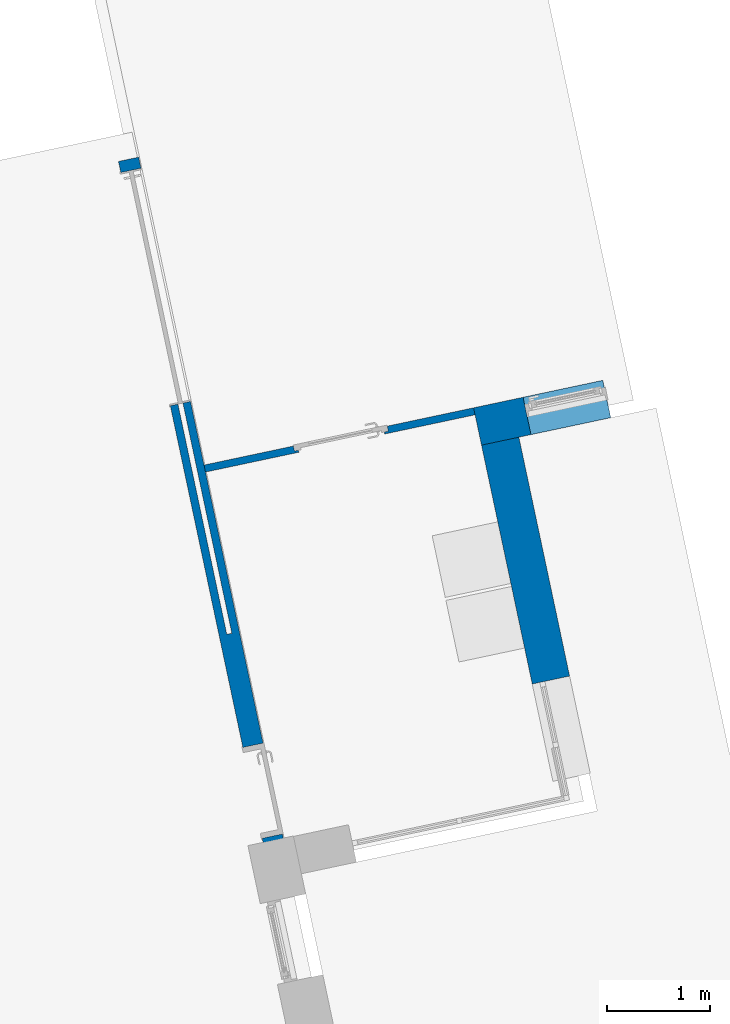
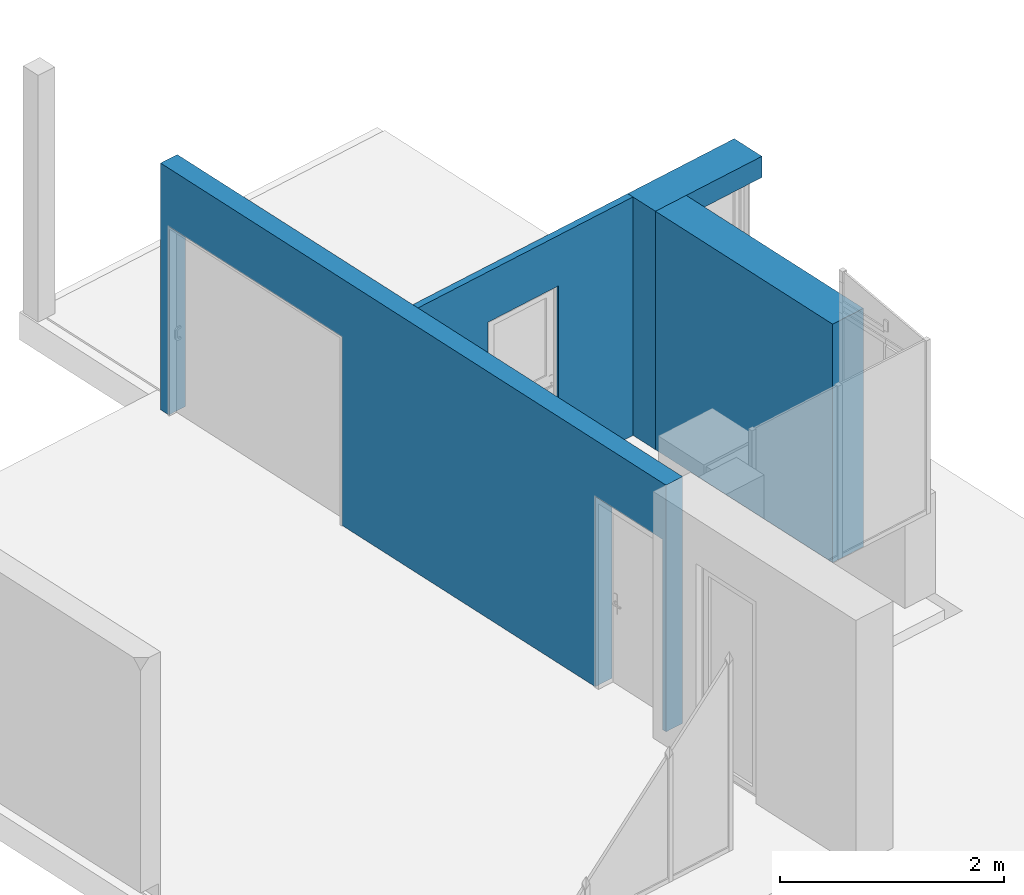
# One storey, part 3 of 17: 4 walls, 7 openings.
"""IFC2X3 building model written with IfcOpenShell, lengths in centimetres."""

import ifcopenshell
import ifcopenshell.guid

model = None  # the IFC model being written
_history = None  # IfcOwnerHistory: only IFC2X3 demands one
_inside = {}  # id of a spatial element -> (the spatial element, [elements in it])
_under = {}  # id of a project, library or spatial element -> (it, [spatial elements below it])
_declared = {}  # id of a project -> (the project, [libraries it declares])
_typed = {}  # id of a type object -> (the type object, [elements of that type])
_made_of = {}  # id of a material, layer set ... -> (it, [elements and type objects made of it])


def new_model(schema):
    """Start an empty IFC model of exactly this schema.

    Asked for "IFC4X3", IfcOpenShell would pick the latest addendum, in which some entities
    have other attributes; the version numbers below select the first issue.
    IFC2X3 requires an IfcOwnerHistory on every rooted entity: one is made here for all.
    """
    global model, _history
    if schema == "IFC4X3":
        model = ifcopenshell.file(schema_version=(4, 3, 0, 0))
    else:
        model = ifcopenshell.file(schema=schema)
    _inside.clear()
    _under.clear()
    _declared.clear()
    _typed.clear()
    _made_of.clear()
    _history = None
    if model.schema == "IFC2X3":
        org = make("IfcOrganization", Name="unknown")
        user = make(
            "IfcPersonAndOrganization",
            ThePerson=make("IfcPerson", FamilyName="unknown"),
            TheOrganization=org,
        )
        app = make(
            "IfcApplication",
            ApplicationDeveloper=org,
            Version="unknown",
            ApplicationFullName="unknown",
            ApplicationIdentifier="unknown",
        )
        _history = make(
            "IfcOwnerHistory",
            OwningUser=user,
            OwningApplication=app,
            ChangeAction="ADDED",
            CreationDate=0,
        )
    return model


def make(cls, **values):
    """One entity of the class cls with the attributes given. An attribute that is None is left unset."""
    return model.create_entity(
        cls, **{name: value for name, value in values.items() if value is not None}
    )


def entity(cls, *values):
    """Any entity or typed value of the class cls, its attributes in the order of the schema. None: left unset."""
    e = model.create_entity(cls)
    for i, value in enumerate(values):
        if value is not None:
            e[i] = value
    return e


def rooted(cls, **values):
    """An entity with a GlobalId (a new one), such as an element, a storey or a relation."""
    return make(cls, GlobalId=ifcopenshell.guid.new(), OwnerHistory=_history, **values)


def si_unit(unit_type, name, prefix=None):
    """IfcSIUnit, for example si_unit("LENGTHUNIT", "METRE", prefix="MILLI")."""
    return make("IfcSIUnit", UnitType=unit_type, Prefix=prefix, Name=name)


def converted_unit(unit_type, name, factor, base, dimensions=None, offset=None):
    """IfcConversionBasedUnit, such as the inch: factor (a typed value) times the base unit."""
    return make(
        "IfcConversionBasedUnit"
        if offset is None
        else "IfcConversionBasedUnitWithOffset",
        ConversionOffset=offset,
        Dimensions=None
        if dimensions is None
        else entity("IfcDimensionalExponents", *dimensions),
        UnitType=unit_type,
        Name=name,
        ConversionFactor=make(
            "IfcMeasureWithUnit", ValueComponent=factor, UnitComponent=base
        ),
    )


def derived_unit(unit_type, elements):
    """IfcDerivedUnit: a product of units, each with its exponent."""
    return make(
        "IfcDerivedUnit",
        Elements=[
            make("IfcDerivedUnitElement", Unit=unit, Exponent=power)
            for unit, power in elements
        ],
        UnitType=unit_type,
    )


def assignment(units):
    """IfcUnitAssignment: the units of a project."""
    return None if units is None else make("IfcUnitAssignment", Units=units)


def point(xyz):
    """IfcCartesianPoint."""
    return None if xyz is None else make("IfcCartesianPoint", Coordinates=xyz)


def direction(xyz):
    """IfcDirection."""
    return None if xyz is None else make("IfcDirection", DirectionRatios=xyz)


def frame(location, z_axis=None, x_axis=None):
    """IfcAxis2Placement3D, a coordinate frame: its origin and axes. An axis left out is left unset."""
    return make(
        "IfcAxis2Placement3D",
        Location=point(location),
        Axis=direction(z_axis),
        RefDirection=direction(x_axis),
    )


def frame_2d(location, x_axis=None):
    """IfcAxis2Placement2D, a coordinate frame in the plane: its origin and x axis."""
    return make(
        "IfcAxis2Placement2D", Location=point(location), RefDirection=direction(x_axis)
    )


def origin():
    """The frame at (0, 0, 0) with its axes left unset."""
    return frame((0.0, 0.0, 0.0))


def place(relative_to, where):
    """IfcLocalPlacement: puts the frame where relative to a parent placement (None: the world)."""
    return make(
        "IfcLocalPlacement", PlacementRelTo=relative_to, RelativePlacement=where
    )


def context(
    kind, dimensions, precision=None, world=None, true_north=None, identifier=None
):
    """IfcGeometricRepresentationContext, for example the 3D "Model" context."""
    return make(
        "IfcGeometricRepresentationContext",
        ContextIdentifier=identifier,
        ContextType=kind,
        CoordinateSpaceDimension=dimensions,
        Precision=precision,
        WorldCoordinateSystem=world,
        TrueNorth=true_north,
    )


def subcontext(parent, identifier, kind, view, scale=None):
    """IfcGeometricRepresentationSubContext, for example "Body" below "Model"."""
    return make(
        "IfcGeometricRepresentationSubContext",
        ContextIdentifier=identifier,
        ContextType=kind,
        ParentContext=parent,
        TargetScale=scale,
        TargetView=view,
    )


def project(units=None, contexts=None):
    """IfcProject with its units and contexts."""
    return rooted(
        "IfcProject",
        Name="project",
        RepresentationContexts=contexts,
        UnitsInContext=assignment(units),
    )


def spatial(cls, under=None, at=None, **own):
    """A site, building, storey or space (cls), placed at a placement, below another one or the project."""
    s = rooted(cls, ObjectPlacement=at, **own)
    if under is not None:
        _under.setdefault(under.id(), (under, []))[1].append(s)
    return s


def polyline(points):
    """IfcPolyline through the points."""
    return make("IfcPolyline", Points=[point(p) for p in points])


def profile(cls, at=None, kind="AREA", **sizes):
    """A parametric profile (cls). Its sizes go by their IFC names, for example OverallWidth=200.0."""
    return make(cls, ProfileType=kind, Position=at, **sizes)


def rectangle(**sizes):
    """IfcRectangleProfileDef."""
    return profile("IfcRectangleProfileDef", **sizes)


def extrude(swept, where, along, depth):
    """IfcExtrudedAreaSolid: the profile swept, set in the frame where, extruded along a direction by depth."""
    return make(
        "IfcExtrudedAreaSolid",
        SweptArea=swept,
        Position=where,
        ExtrudedDirection=direction(along),
        Depth=depth,
    )


def clip(a, b, op="DIFFERENCE"):
    """IfcBooleanClippingResult: the solid a cut by the half space b."""
    return make(
        "IfcBooleanClippingResult", Operator=op, FirstOperand=a, SecondOperand=b
    )


def bounded_halfspace(plane, agree, where, boundary):
    """IfcPolygonalBoundedHalfSpace: a half space limited to a polygon's prism."""
    return make(
        "IfcPolygonalBoundedHalfSpace",
        BaseSurface=make("IfcPlane", Position=plane),
        AgreementFlag=agree,
        Position=where,
        PolygonalBoundary=boundary,
    )


def faces_of(points, faces, orient=None, outer=None):
    """IfcFace entities. A face is a list of loops; a loop is a list of indices into points, from 0.

    orient and outer hold one flag for each loop. By default every Orientation is true, the
    first loop of a face is its IfcFaceOuterBound and the others are IfcFaceBound.
    """
    made = []
    for i, loops in enumerate(faces):
        bounds = []
        for j, loop in enumerate(loops):
            is_outer = j == 0 if outer is None else outer[i][j]
            bounds.append(
                make(
                    "IfcFaceOuterBound" if is_outer else "IfcFaceBound",
                    Bound=make("IfcPolyLoop", Polygon=[points[k] for k in loop]),
                    Orientation=True if orient is None else orient[i][j],
                )
            )
        made.append(make("IfcFace", Bounds=bounds))
    return made


def faceted_brep(points, faces, orient=None, outer=None, voids=None):
    """IfcFacetedBrep: a solid bounded by flat faces; with voids (closed shells), ...WithVoids."""
    shared = [point(p) for p in points]
    hull = make("IfcClosedShell", CfsFaces=faces_of(shared, faces, orient, outer))
    if voids is None:
        return make("IfcFacetedBrep", Outer=hull)
    return make(
        "IfcFacetedBrepWithVoids",
        Outer=hull,
        Voids=[
            make(cls, CfsFaces=faces_of(shared, fs, o, b)) for cls, fs, o, b in voids
        ],
    )


def shape(context_of_items, identifier, shape_type, items):
    """IfcShapeRepresentation: the items that make up one representation, for example the "Body"."""
    return make(
        "IfcShapeRepresentation",
        ContextOfItems=context_of_items,
        RepresentationIdentifier=identifier,
        RepresentationType=shape_type,
        Items=items,
    )


def material(Name=None, Category=None):
    """IfcMaterial."""
    return make("IfcMaterial", Name=Name, Category=Category)


def layer(
    of_material, thickness, ventilated=None, Name=None, Category=None, Priority=None
):
    """IfcMaterialLayer: one layer of a wall or slab, of a material (None: an air gap)."""
    return make(
        "IfcMaterialLayer",
        Material=of_material,
        LayerThickness=thickness,
        IsVentilated=ventilated,
        Name=Name,
        Category=Category,
        Priority=Priority,
    )


def layer_set(layers, Name=None):
    """IfcMaterialLayerSet."""
    return make("IfcMaterialLayerSet", MaterialLayers=layers, LayerSetName=Name)


def layer_usage(for_layer_set, set_direction, sense, offset, extent=None):
    """IfcMaterialLayerSetUsage: how a layer set lies in its element."""
    return make(
        "IfcMaterialLayerSetUsage",
        ForLayerSet=for_layer_set,
        LayerSetDirection=set_direction,
        DirectionSense=sense,
        OffsetFromReferenceLine=offset,
        ReferenceExtent=extent,
    )


def made_of(thing, what):
    """Note that an element or type object is made of a material, layer set ...; save() writes the relation."""
    if what is not None:
        _made_of.setdefault(what.id(), (what, []))[1].append(thing)
    return thing


def type_object(cls, material=None, **own):
    """A type object (cls), such as IfcWallType, which elements share."""
    return made_of(rooted(cls, **own), material)


def element(
    cls,
    number,
    at=None,
    inside=None,
    cuts=None,
    type_object=None,
    material=None,
    context=None,
    identifier="Body",
    shape_type=None,
    held_by="IfcProductDefinitionShape",
    body=None,
    shapes=None,
    **own,
):
    """One element of the class cls, such as IfcWall. Its Tag is "e" and its number.

    at: its placement. inside: the storey or other place that contains it. cuts: it is an
    opening in that element (IfcRelVoidsElement). A single representation is given by context,
    identifier, shape_type and body (its items); several are given by shapes. held_by: the class
    of the entity that holds the representations. save() writes the other relations.
    """
    e = rooted(cls, Tag="e%d" % number, ObjectPlacement=at, **own)
    if body is not None:
        shapes = [shape(context, identifier, shape_type, body)]
    if shapes is not None:
        e.Representation = make(held_by, Representations=shapes)
    if inside is not None:
        _inside.setdefault(inside.id(), (inside, []))[1].append(e)
    if cuts is not None:
        rooted(
            "IfcRelVoidsElement", RelatingBuildingElement=cuts, RelatedOpeningElement=e
        )
    if type_object is not None:
        _typed.setdefault(type_object.id(), (type_object, []))[1].append(e)
    return made_of(e, material)


def aggregate(whole, parts):
    """IfcRelAggregates: a whole, such as a stair, and the parts it consists of."""
    return rooted("IfcRelAggregates", RelatingObject=whole, RelatedObjects=parts)


def save(model, path):
    """Write the relations noted so far, then the file.

    IfcRelAggregates (storeys below a building ...), IfcRelContainedInSpatialStructure (elements
    in a storey), IfcRelDefinesByType, IfcRelAssociatesMaterial and IfcRelDeclares: one each for
    every whole, place, type object, material and project.
    """
    for whole, parts in _under.values():
        aggregate(whole, parts)
    for where, things in _inside.values():
        rooted(
            "IfcRelContainedInSpatialStructure",
            RelatedElements=things,
            RelatingStructure=where,
        )
    for kind, things in _typed.values():
        rooted("IfcRelDefinesByType", RelatedObjects=things, RelatingType=kind)
    for what, things in _made_of.values():
        rooted("IfcRelAssociatesMaterial", RelatedObjects=things, RelatingMaterial=what)
    for by, libraries in _declared.values():
        rooted("IfcRelDeclares", RelatingContext=by, RelatedDefinitions=libraries)
    model.write(path)


model = new_model("IFC2X3")

# Units and contexts
model_context = context("Model", 3, precision=0.001, world=origin(), true_north=direction((6.12303176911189e-17, 1.0)))
body_context = subcontext(model_context, "Body", "Model", "MODEL_VIEW")
ifc_project = project(units=[si_unit("LENGTHUNIT", "METRE", prefix="CENTI"), si_unit("AREAUNIT", "SQUARE_METRE"), si_unit("VOLUMEUNIT", "CUBIC_METRE"), converted_unit("PLANEANGLEUNIT", "DEGREE", entity("IfcRatioMeasure", 0.0174532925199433), si_unit("PLANEANGLEUNIT", "RADIAN"), dimensions=[0, 0, 0, 0, 0, 0, 0]), si_unit("MASSUNIT", "GRAM", prefix="KILO"), derived_unit("MASSDENSITYUNIT", [(si_unit("MASSUNIT", "GRAM", prefix="KILO"), 1), (si_unit("LENGTHUNIT", "METRE"), -3)]), derived_unit("IONCONCENTRATIONUNIT", [(si_unit("MASSUNIT", "GRAM", prefix="KILO"), 1), (si_unit("LENGTHUNIT", "METRE"), -3)]), derived_unit("MOMENTOFINERTIAUNIT", [(si_unit("LENGTHUNIT", "METRE"), 4)]), si_unit("TIMEUNIT", "SECOND"), si_unit("FREQUENCYUNIT", "HERTZ"), si_unit("THERMODYNAMICTEMPERATUREUNIT", "DEGREE_CELSIUS"), derived_unit("THERMALTRANSMITTANCEUNIT", [(si_unit("MASSUNIT", "GRAM", prefix="KILO"), 1), (si_unit("THERMODYNAMICTEMPERATUREUNIT", "KELVIN"), -1), (si_unit("TIMEUNIT", "SECOND"), -3)]), derived_unit("THERMALCONDUCTANCEUNIT", [(si_unit("MASSUNIT", "GRAM", prefix="KILO"), 1), (si_unit("THERMODYNAMICTEMPERATUREUNIT", "KELVIN"), -1), (si_unit("TIMEUNIT", "SECOND"), -3), (si_unit("LENGTHUNIT", "METRE"), 1)]), derived_unit("VOLUMETRICFLOWRATEUNIT", [(si_unit("LENGTHUNIT", "METRE"), 3), (si_unit("TIMEUNIT", "SECOND"), -1)]), derived_unit("MASSFLOWRATEUNIT", [(si_unit("MASSUNIT", "GRAM", prefix="KILO"), 1), (si_unit("TIMEUNIT", "SECOND"), -1)]), derived_unit("ROTATIONALFREQUENCYUNIT", [(si_unit("TIMEUNIT", "SECOND"), -1)]), si_unit("ELECTRICCURRENTUNIT", "AMPERE"), si_unit("ELECTRICVOLTAGEUNIT", "VOLT"), si_unit("POWERUNIT", "WATT"), si_unit("FORCEUNIT", "NEWTON", prefix="KILO"), si_unit("ILLUMINANCEUNIT", "LUX"), si_unit("LUMINOUSFLUXUNIT", "LUMEN"), si_unit("LUMINOUSINTENSITYUNIT", "CANDELA"), derived_unit("USERDEFINED", [(si_unit("MASSUNIT", "GRAM", prefix="KILO"), -1), (si_unit("LENGTHUNIT", "METRE"), -2), (si_unit("TIMEUNIT", "SECOND"), 3), (si_unit("LUMINOUSFLUXUNIT", "LUMEN"), 1)]), derived_unit("USERDEFINED", [(si_unit("MASSUNIT", "GRAM", prefix="KILO"), 1), (si_unit("TIMEUNIT", "SECOND"), -3), (si_unit("LENGTHUNIT", "METRE"), 3), (si_unit("ELECTRICCURRENTUNIT", "AMPERE"), -2)]), derived_unit("SOUNDPOWERUNIT", [(si_unit("MASSUNIT", "GRAM", prefix="KILO"), 1), (si_unit("TIMEUNIT", "SECOND"), -3), (si_unit("LENGTHUNIT", "METRE"), 2)]), derived_unit("SOUNDPRESSUREUNIT", [(si_unit("MASSUNIT", "GRAM", prefix="KILO"), 1), (si_unit("LENGTHUNIT", "METRE"), -1), (si_unit("TIMEUNIT", "SECOND"), -2)]), derived_unit("LINEARVELOCITYUNIT", [(si_unit("LENGTHUNIT", "METRE"), 1), (si_unit("TIMEUNIT", "SECOND"), -1)]), si_unit("PRESSUREUNIT", "PASCAL"), derived_unit("USERDEFINED", [(si_unit("MASSUNIT", "GRAM", prefix="KILO"), 1), (si_unit("LENGTHUNIT", "METRE"), -2), (si_unit("TIMEUNIT", "SECOND"), -2)]), derived_unit("LINEARFORCEUNIT", [(si_unit("MASSUNIT", "GRAM", prefix="KILO"), 1), (si_unit("TIMEUNIT", "SECOND"), -2)]), derived_unit("PLANARFORCEUNIT", [(si_unit("MASSUNIT", "GRAM", prefix="KILO"), 1), (si_unit("LENGTHUNIT", "METRE"), -1), (si_unit("TIMEUNIT", "SECOND"), -2)]), derived_unit("SPECIFICHEATCAPACITYUNIT", [(si_unit("THERMODYNAMICTEMPERATUREUNIT", "KELVIN"), -1), (si_unit("LENGTHUNIT", "METRE"), 2), (si_unit("TIMEUNIT", "SECOND"), -2)]), derived_unit("HEATINGVALUEUNIT", [(si_unit("LENGTHUNIT", "METRE"), 2), (si_unit("TIMEUNIT", "SECOND"), -2)]), derived_unit("VAPORPERMEABILITYUNIT", [(si_unit("LENGTHUNIT", "METRE"), -1), (si_unit("TIMEUNIT", "SECOND"), 1)]), derived_unit("DYNAMICVISCOSITYUNIT", [(si_unit("MASSUNIT", "GRAM", prefix="KILO"), 1), (si_unit("TIMEUNIT", "SECOND"), -1), (si_unit("LENGTHUNIT", "METRE"), -1)]), derived_unit("THERMALEXPANSIONCOEFFICIENTUNIT", [(si_unit("THERMODYNAMICTEMPERATUREUNIT", "KELVIN"), -1)]), derived_unit("MODULUSOFELASTICITYUNIT", [(si_unit("MASSUNIT", "GRAM", prefix="KILO"), 1), (si_unit("LENGTHUNIT", "METRE"), -1), (si_unit("TIMEUNIT", "SECOND"), -2)]), derived_unit("ISOTHERMALMOISTURECAPACITYUNIT", [(si_unit("LENGTHUNIT", "METRE"), 3), (si_unit("MASSUNIT", "GRAM", prefix="KILO"), -1)]), derived_unit("MOISTUREDIFFUSIVITYUNIT", [(si_unit("TIMEUNIT", "SECOND"), -1), (si_unit("LENGTHUNIT", "METRE"), 2)])], contexts=[model_context])

# Site, building, storey
site_placement = place(None, frame((14083.8920177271, -6853.25409548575, 6900.0), z_axis=(0.0, 0.0, 1.0), x_axis=(0.978188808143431, 0.207717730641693, 0.0)))
site = spatial("IfcSite", under=ifc_project, at=site_placement, Name="Surface", CompositionType="ELEMENT")
building_placement = place(site_placement, origin())
building = spatial("IfcBuilding", under=site, at=building_placement, CompositionType="ELEMENT")
storey_placement = place(building_placement, origin())
storey = spatial("IfcBuildingStorey", under=building, at=storey_placement, Name="_Rez de chaussée Séjour", CompositionType="ELEMENT", Elevation=2.07727662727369e-10)

# Wall
ifc_material_1 = material(Name="__ ENDUIT_Blanc")
ifc_layer_1 = layer(ifc_material_1, 2.0)
ifc_material_2 = material(Name="__ BETON_parpaings")
ifc_layer_2 = layer(ifc_material_2, 20.0)
ifc_material_3 = material(Name="__ ISOLANT (pat 1)")
ifc_layer_3 = layer(ifc_material_3, 13.0)
ifc_layer_4 = layer(ifc_material_1, 2.0)
ifc_layer_set_1 = layer_set([ifc_layer_1, ifc_layer_2, ifc_layer_3, ifc_layer_4], Name="Mur de base:*BRIQUE 37 (20 +INT 13+2 + EXT 2) (Iso+BA13)(enduit)")
ifc_layer_usage_1 = layer_usage(ifc_layer_set_1, "AXIS2", "NEGATIVE", 18.5)
wall_type_1 = type_object("IfcWallType", Name="Mur de base:*BRIQUE 37 (20 +INT 13+2 + EXT 2) (Iso+BA13)(enduit)", PredefinedType="STANDARD", material=ifc_layer_set_1)
wall_1_placement = place(storey_placement, frame((-5969.31321908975, 15160.6673447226, 0.0), z_axis=(0.0, 0.0, 1.0), x_axis=(0.0, -1.0, 0.0)))
element("IfcWallStandardCase", 1, at=wall_1_placement, inside=storey, type_object=wall_type_1, material=ifc_layer_usage_1, Name="Mur de base:*BRIQUE 37 (20 +INT 13+2 + EXT 2) (Iso+BA13)(enduit)", ObjectType="Mur de base:*BRIQUE 37 (20 +INT 13+2 + EXT 2) (Iso+BA13)(enduit)", context=body_context, shape_type="SweptSolid", body=[
    extrude(rectangle(XDim=236.606875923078, YDim=37.0000000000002, at=frame_2d((118.303437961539, -2.16715534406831e-13), x_axis=(-1.0, 0.0))), origin(), (0.0, 0.0, 1.0), 259.999999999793),
])

# Wall, opening
ifc_material_4 = material(Name="__ BA 13")
ifc_layer_5 = layer(ifc_material_4, 7.0)
ifc_layer_set_2 = layer_set([ifc_layer_5], Name="Mur de base:*Cloison 72/48 cm")
ifc_layer_usage_2 = layer_usage(ifc_layer_set_2, "AXIS2", "POSITIVE", -3.5)
wall_type_2 = type_object("IfcWallType", Name="Mur de base:*Cloison 72/48 cm", PredefinedType="STANDARD", material=ifc_layer_set_2)
wall_2_placement = place(storey_placement, frame((-5987.81321908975, 15194.1673447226, 0.0), z_axis=(0.0, 0.0, 1.0), x_axis=(-1.0, 0.0, 0.0)))
wall_2 = element("IfcWallStandardCase", 2, at=wall_2_placement, inside=storey, type_object=wall_type_2, material=ifc_layer_usage_2, Name="Mur de base:*Cloison 72/48 cm", ObjectType="Mur de base:*Cloison 72/48 cm", context=body_context, shape_type="Clipping", body=[
    clip(extrude(rectangle(XDim=266.999999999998, YDim=7.00000000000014, at=frame_2d((133.499999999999, -8.90176821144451e-13), x_axis=(1.0, 0.0))), origin(), (0.0, 0.0, 1.0), 260.0), bounded_halfspace(frame((0.0, -3.50000000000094, 260.0), z_axis=(0.0, 0.0, -1.0), x_axis=(-1.0, 0.0, 0.0)), True, frame((0.0, -3.50000000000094, 260.0)), polyline([(0.0, 0.0), (267.0, 0.0), (267.0, 7.0), (0.0, 7.0), (0.0, 0.0)]))),
])
opening_1_placement = place(wall_2_placement, frame((178.5, 33.5000000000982, 0.0), z_axis=(0.0, 0.0, 1.0), x_axis=(-1.0, 0.0, 0.0)))
element("IfcOpeningElement", 3, at=opening_1_placement, cuts=wall_2, Name="Mur de base:*Cloison 72/48 cm", ObjectType="Opening", context=body_context, shape_type="Brep", body=[
    faceted_brep([(4.0, 67.0, 205.0), (4.0, 37.0, 205.0), (89.0, 37.0, 205.0), (89.0, 67.0, 205.0), (4.0, 0.0, 0.0), (4.0, 32.0, 0.0), (0.0, 32.0, 0.0), (0.0, 37.0, 0.0), (4.0, 37.0, 0.0), (4.0, 67.0, 0.0), (89.0, 67.0, 0.0), (89.0, 37.0, 0.0), (93.0, 37.0, 0.0), (93.0, 32.0, 0.0), (89.0, 32.0, 0.0), (89.0, 0.0, 0.0), (4.0, 0.0, 205.0), (89.0, 0.0, 205.0), (4.0, 32.0, 205.0), (0.0, 37.0, 209.0), (93.0, 37.0, 209.0), (93.0, 32.0, 209.0), (0.0, 32.0, 209.0), (89.0, 32.0, 205.0)], [[[0, 1, 2, 3]], [[4, 5, 6, 7, 8, 9, 10, 11, 12, 13, 14, 15]], [[16, 4, 15, 17]], [[3, 2, 11, 10]], [[3, 10, 9, 0]], [[16, 18, 5, 4]], [[11, 2, 1, 8, 7, 19, 20, 12]], [[12, 20, 21, 13]], [[13, 21, 22, 6, 5, 18, 23, 14]], [[19, 22, 21, 20]], [[7, 6, 22, 19]], [[9, 8, 1, 0]], [[15, 14, 23, 17]], [[17, 23, 18, 16]]]),
])

ifc_material_5 = material(Name="__ PIERRE______________________TEST")
ifc_layer_6 = layer(ifc_material_5, 2.0)
ifc_layer_7 = layer(ifc_material_2, 20.0)
ifc_layer_8 = layer(ifc_material_3, 13.0)
ifc_layer_9 = layer(ifc_material_1, 2.0)
ifc_layer_set_3 = layer_set([ifc_layer_6, ifc_layer_7, ifc_layer_8, ifc_layer_9], Name="Mur de base:*BRIQUE 37 (20 +INT 13+2 + EXT 2) (Iso+BA13)(parement)")
ifc_layer_usage_3 = layer_usage(ifc_layer_set_3, "AXIS2", "NEGATIVE", 18.5)
wall_type_3 = type_object("IfcWallType", Name="Mur de base:*BRIQUE 37 (20 +INT 13+2 + EXT 2) (Iso+BA13)(parement)", PredefinedType="STANDARD", material=ifc_layer_set_3)
wall_3_placement = place(storey_placement, frame((-5859.81321908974, 15179.1673447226, 0.0), z_axis=(0.0, 0.0, 1.0), x_axis=(-1.0, 0.0, 0.0)))
wall_3 = element("IfcWallStandardCase", 4, at=wall_3_placement, inside=storey, type_object=wall_type_3, material=ifc_layer_usage_3, Name="Mur de base:*BRIQUE 37 (20 +INT 13+2 + EXT 2) (Iso+BA13)(parement)", ObjectType="Mur de base:*BRIQUE 37 (20 +INT 13+2 + EXT 2) (Iso+BA13)(parement)", context=body_context, shape_type="SweptSolid", body=[
    extrude(rectangle(XDim=128.000000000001, YDim=37.0000000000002, at=frame_2d((64.0000000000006, -8.66862137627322e-13), x_axis=(-1.0, 0.0))), origin(), (0.0, 0.0, 1.0), 259.999999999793),
])
opening_2_placement = place(wall_3_placement, frame((79.0, 21.0, 11.3850445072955), z_axis=(0.0, 0.0, 1.0), x_axis=(-1.0, 0.0, 0.0)))
element("IfcOpeningElement", 5, at=opening_2_placement, cuts=wall_3, Name="Mur de base:*BRIQUE 37 (20 +INT 13+2 + EXT 2) (Iso+BA13)(parement)", ObjectType="Opening", context=body_context, shape_type="Brep", body=[
    faceted_brep([(0.0, 39.5000000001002, 225.614955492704), (80.0, 39.5000000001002, 225.614955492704), (80.0, 39.5000000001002, 5.61495549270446), (0.0, 39.5000000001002, 5.61495549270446), (0.0, 2.50000000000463, 225.614955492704), (0.0, 2.50000000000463, 5.61495549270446), (79.8999999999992, 2.50000000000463, 5.61495549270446), (80.0, 2.50000000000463, 5.61495549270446), (80.0, 2.50000000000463, 225.614955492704), (0.0, 34.2000000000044, 225.614955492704), (0.0, 34.2000000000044, 225.714955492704), (0.0, 34.3000000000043, 225.714955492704), (0.0, 34.3000000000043, 225.614955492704), (80.0, 33.0, 5.61495549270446), (79.8999999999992, 33.0, 5.61495549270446), (80.0, 34.3000000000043, 225.614955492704), (80.0, 34.3000000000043, 225.714955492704), (80.0, 34.2000000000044, 225.714955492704), (80.0, 34.2000000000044, 225.614955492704), (80.0, 14.3000000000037, 225.614955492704), (80.0, 14.3000000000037, 225.714955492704), (80.0, 14.2000000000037, 225.714955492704), (80.0, 14.2000000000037, 225.614955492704), (80.0, 0.0, 5.61495549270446), (80.0, 0.0, 0.0), (80.0, 30.502511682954, 2.11559678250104), (80.0, 33.0, 2.11559678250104), (79.8999999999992, 30.5025116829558, 2.11559678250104), (79.8999999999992, 0.0, 0.0), (79.8999999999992, 0.0, 5.61495549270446), (79.8999999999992, 33.0, 2.11559678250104), (79.8999999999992, 14.3000000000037, 225.714955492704), (79.8999999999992, 14.3000000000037, 225.614955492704), (79.8999999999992, 14.2000000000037, 225.614955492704), (79.8999999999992, 14.2000000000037, 225.714955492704)], [[[0, 1, 2, 3]], [[4, 5, 6, 7, 8]], [[0, 3, 5, 4, 9, 10, 11, 12]], [[3, 2, 13, 14, 6, 5]], [[2, 1, 15, 16, 17, 18, 19, 20, 21, 22, 8, 7, 23, 24, 25, 26, 13]], [[1, 0, 12, 15]], [[27, 28, 29, 6, 14, 30]], [[27, 30, 26, 25]], [[30, 14, 13, 26]], [[29, 23, 7, 6]], [[29, 28, 24, 23]], [[28, 27, 25, 24]], [[31, 32, 33, 34]], [[31, 34, 21, 20]], [[34, 33, 22, 21]], [[32, 31, 20, 19]], [[12, 11, 16, 15]], [[11, 10, 17, 16]], [[10, 9, 18, 17]], [[4, 8, 22, 33, 32, 19, 18, 9]]]),
])

# Wall, openings
ifc_material_6 = material(Name="Béton, précoulé")
ifc_layer_10 = layer(ifc_material_6, 20.0)
ifc_layer_set_4 = layer_set([ifc_layer_10], Name="Mur de base:*BETON 20")
ifc_layer_usage_4 = layer_usage(ifc_layer_set_4, "AXIS2", "NEGATIVE", 10.0)
wall_type_4 = type_object("IfcWallType", Name="Mur de base:*BETON 20", PredefinedType="STANDARD", material=ifc_layer_set_4)
wall_4_placement = place(storey_placement, frame((-6264.81321908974, 15502.6324526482, 0.0), z_axis=(0.0, 0.0, 1.0), x_axis=(0.0, -1.0, 0.0)))
wall_4 = element("IfcWallStandardCase", 6, at=wall_4_placement, inside=storey, type_object=wall_type_4, material=ifc_layer_usage_4, Name="Mur de base:*BETON 20", ObjectType="Mur de base:*BETON 20", context=body_context, shape_type="SweptSolid", body=[
    extrude(rectangle(XDim=674.965107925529, YDim=20.0000000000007, at=frame_2d((337.482553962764, -6.21724893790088e-14), x_axis=(-1.0, 0.0))), origin(), (0.0, 0.0, 1.0), 268.999999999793),
])
opening_3_placement = place(wall_4_placement, origin())
element("IfcOpeningElement", 7, at=opening_3_placement, cuts=wall_4, Name="Mur de base:*BETON 20", ObjectType="Opening", context=body_context, shape_type="SweptSolid", body=[
    extrude(rectangle(XDim=220.0, YDim=109.999999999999, at=frame_2d((-1.73372427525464e-12, 7.105427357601e-15), x_axis=(0.0, 1.0))), frame((-119.534892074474, -127.4, 110.0), z_axis=(0.0, 1.0, 0.0), x_axis=(-1.0, 0.0, 0.0)), (0.0, 0.0, 1.0), 304.8),
])
opening_4_placement = place(wall_4_placement, origin())
element("IfcOpeningElement", 8, at=opening_4_placement, cuts=wall_4, Name="Mur de base:*BETON 20", ObjectType="Opening", context=body_context, shape_type="SweptSolid", body=[
    extrude(rectangle(XDim=220.0, YDim=49.999999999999, at=frame_2d((0.0, -1.73372427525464e-12), x_axis=(1.0, 0.0))), frame((-199.53489207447, -33.0, 110.0), z_axis=(0.0, 1.0, 0.0), x_axis=(0.0, 0.0, -1.0)), (0.0, 0.0, 1.0), 57.9999999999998),
])
opening_5_placement = place(wall_4_placement, frame((-147.034892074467, 20.0, -7.9639104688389)))
element("IfcOpeningElement", 9, at=opening_5_placement, cuts=wall_4, Name="Mur de base:*BETON 20", ObjectType="Opening", context=body_context, shape_type="Brep", body=[
    faceted_brep([(-38.5000000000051, 305.0, 7.96391046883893), (-38.5000000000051, 305.0, 6.46391046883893), (-100.0, 305.0, 0.0), (-100.0, 305.0, 227.963910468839), (-40.5000000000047, 305.0, 227.963910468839), (-40.5000000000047, 305.0, 7.96391046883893), (0.0, 5.0, 7.96391046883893), (0.0, 5.0, 227.963910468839), (-27.5000000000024, 5.0, 227.963910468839), (-27.5000000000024, 5.0, 7.96391046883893), (0.0, 305.0, 7.96391046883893), (-27.5000000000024, 0.0, 7.96391046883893), (-34.5000000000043, 0.0, 7.96391046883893), (-34.5000000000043, 4.0, 7.96391046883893), (-40.5000000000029, 4.0, 7.96391046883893), (-40.5000000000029, 5.0, 7.96391046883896), (-38.5000000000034, 5.0, 7.96391046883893), (-40.5000000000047, 306.0, 7.96391046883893), (-34.500000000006, 306.0, 7.96391046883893), (-34.500000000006, 310.0, 7.96391046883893), (-27.5000000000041, 310.0, 7.96391046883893), (-27.5000000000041, 305.0, 7.96391046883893), (0.0, 305.0, 227.963910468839), (-27.5000000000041, 305.0, 227.963910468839), (-100.0, 5.0, 0.0), (-100.0, 5.0, 227.963910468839), (-38.5000000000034, 5.0, 6.46391046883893), (-34.5000000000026, 310.0, 232.96391046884), (-27.5000000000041, 310.0, 232.96391046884), (-34.5000000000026, 306.0, 228.963910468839), (-34.5000000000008, 4.0, 228.963910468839), (-34.5000000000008, 0.0, 232.96391046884), (-40.5000000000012, 306.0, 228.963910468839), (-40.5000000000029, 5.0, 227.963910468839), (-40.5000000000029, 4.0, 228.963910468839), (-27.5000000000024, 0.0, 232.96391046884)], [[[0, 1, 2, 3, 4, 5]], [[6, 7, 8, 9]], [[10, 6, 9, 11, 12, 13, 14, 15, 16, 0, 5, 17, 18, 19, 20, 21]], [[10, 22, 7, 6]], [[7, 22, 23, 8]], [[3, 2, 24, 25]], [[2, 1, 26, 24]], [[1, 0, 16, 26]], [[20, 19, 27, 28]], [[19, 18, 29, 30, 13, 12, 31, 27]], [[18, 17, 32, 29]], [[17, 5, 4, 33, 15, 14, 34, 32]], [[21, 20, 28, 35, 11, 9, 8, 23]], [[28, 27, 31, 35]], [[30, 29, 32, 34]], [[31, 12, 11, 35]], [[13, 30, 34, 14]], [[3, 25, 33, 4]], [[25, 24, 26, 16, 15, 33]], [[22, 10, 21, 23]]]),
])
opening_6_placement = place(wall_4_placement, frame((470.0, -25.0, 0.0), z_axis=(0.0, 0.0, 1.0), x_axis=(0.0, 1.0, 0.0)))
element("IfcOpeningElement", 10, at=opening_6_placement, cuts=wall_4, Name="Mur de base:*BETON 20", ObjectType="Opening", context=body_context, shape_type="Brep", body=[
    faceted_brep([(50.0, 228.0, 205.5), (50.0, 459.0, 205.5), (0.0, 459.0, 205.5), (0.0, 228.0, 205.5), (22.5000000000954, 228.0, 205.5), (22.5000000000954, 0.0, 205.5), (27.5000000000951, 0.0, 205.5), (27.5000000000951, 228.0, 205.5), (50.0, 228.0, 0.0), (27.5000000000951, 228.0, 0.0), (27.5000000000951, 0.0, 0.0), (22.5000000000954, 0.0, 0.0), (22.5000000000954, 228.0, 0.0), (0.0, 228.0, 0.0), (0.0, 459.0, 0.0), (50.0, 459.0, 0.0)], [[[0, 1, 2, 3, 4, 5, 6, 7]], [[8, 9, 10, 11, 12, 13, 14, 15]], [[1, 0, 8, 15]], [[2, 1, 15, 14]], [[3, 2, 14, 13]], [[4, 3, 13, 12]], [[5, 4, 12, 11]], [[6, 5, 11, 10]], [[7, 6, 10, 9]], [[0, 7, 9, 8]]]),
])
opening_7_placement = place(wall_4_placement, frame((580.459974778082, -10.0, 0.0)))
element("IfcOpeningElement", 11, at=opening_7_placement, cuts=wall_4, Name="*Porte_alveolaire:Pp 83 x 204:1", ObjectType="Opening", context=body_context, shape_type="SweptSolid", body=[
    extrude(rectangle(XDim=207.5, YDim=89.9999999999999, at=frame_2d((103.75, 45.0), x_axis=(1.0, 0.0))), frame((0.0, 0.0, 0.0), z_axis=(0.0, 1.0, 0.0), x_axis=(0.0, 0.0, 1.0)), (0.0, 0.0, 1.0), 20.0),
])

save(model, "model.ifc")
